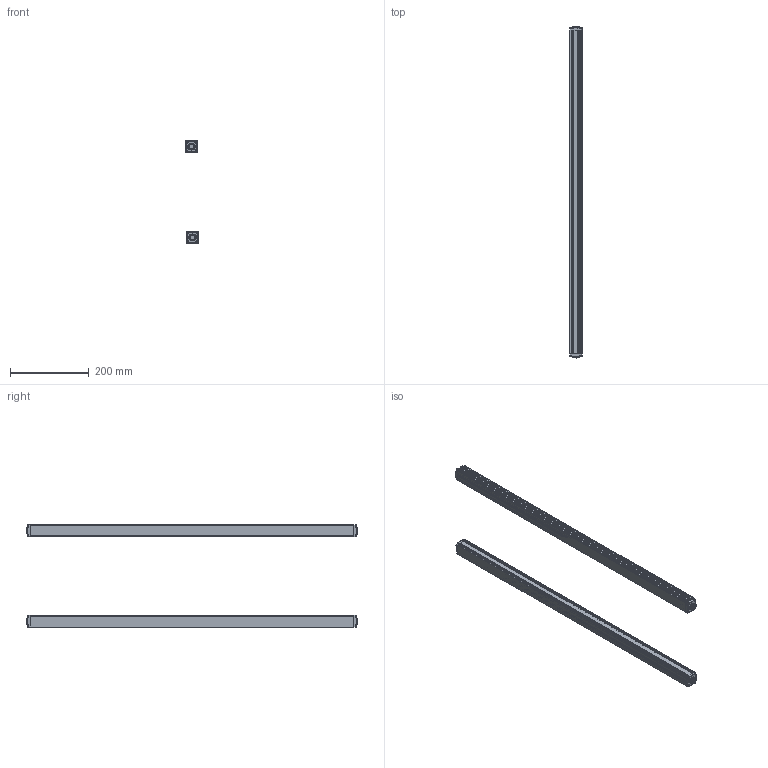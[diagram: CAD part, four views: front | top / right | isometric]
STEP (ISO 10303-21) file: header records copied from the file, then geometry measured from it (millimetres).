
FILE_DESCRIPTION (( 'STEP AP203' ), '1' );
FILE_NAME ('ZDA8010-820.STEP', '2022-12-20T02:04:09', ( 'User' ), ( 'China' ), 'SwSTEP 2.0', 'SolidWorks 2020', '' );
FILE_SCHEMA (( 'CONFIG_CONTROL_DESIGN' ));
Length unit declared in the file: millimetre
Products named in the file (5): ZDA8010-820; 錨璃8; 錨璃10; 錨璃1; 錨璃8 - 萵掛 (2)
Assembly tree (8 placements, depth 2):
  ZDA8010-820
    錨璃1  x2
    錨璃8  x2
    錨璃8 - 萵掛 (2)  x2
    錨璃10  x2
Bounding box: 32.36 x 841.4 x 260.35 mm (x, y, z)
Volume: 522440.5 mm3; surface area: 553085.3 mm2
Topology: 8 solids, 8 shells, 1032 faces, 2690 edges, 1668 vertices
Faces by surface type: plane 464, cylinder 310, cone 120, bspline 58, torus 48, sphere 32
Entity records: 17901 total; most frequent: CARTESIAN_POINT 4731, ORIENTED_EDGE 2666, DIRECTION 2616, EDGE_CURVE 1333, AXIS2_PLACEMENT_3D 894, VERTEX_POINT 834, LINE 828, VECTOR 828
